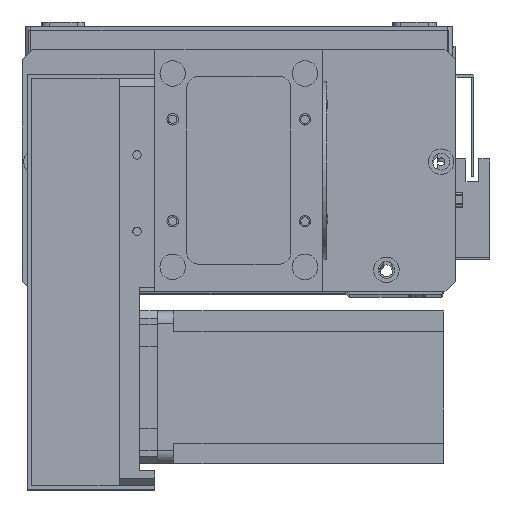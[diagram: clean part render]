
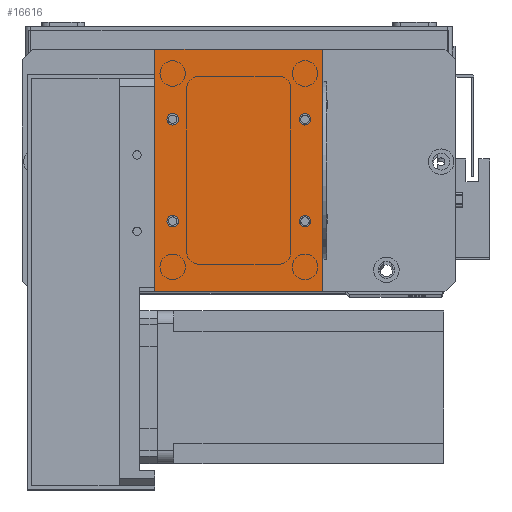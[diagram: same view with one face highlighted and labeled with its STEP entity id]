
A CAD part, top view. The second image highlights one B-rep face of the part: STEP entity #16616.
In plain terms, the highlighted planar face has unit normal (0, 0, 1).
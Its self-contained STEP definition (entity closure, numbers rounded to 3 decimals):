
#145 = VERTEX_POINT ( 'NONE', #14103 ) ;
#442 = AXIS2_PLACEMENT_3D ( 'NONE', #9469, #26300, #11877 ) ;
#683 = LINE ( 'NONE', #13311, #25603 ) ;
#1136 = EDGE_CURVE ( 'NONE', #10049, #26331, #16048, .T. ) ;
#1785 = DIRECTION ( 'NONE',  ( 1., 0., 0. ) ) ;
#1976 = AXIS2_PLACEMENT_3D ( 'NONE', #22240, #22003, #21690 ) ;
#2219 = AXIS2_PLACEMENT_3D ( 'NONE', #13370, #13170, #10941 ) ;
#2274 = CARTESIAN_POINT ( 'NONE',  ( 66., 95., 2. ) ) ;
#2403 = EDGE_CURVE ( 'NONE', #30305, #5881, #5742, .T. ) ;
#2607 = CARTESIAN_POINT ( 'NONE',  ( 9.25, 27.5, 2. ) ) ;
#2885 = EDGE_CURVE ( 'NONE', #12285, #18011, #11582, .T. ) ;
#2911 = CIRCLE ( 'NONE', #4398, 2.25 ) ;
#3321 = VERTEX_POINT ( 'NONE', #25537 ) ;
#3377 = PLANE ( 'NONE',  #28694 ) ;
#3705 = ORIENTED_EDGE ( 'NONE', *, *, #9231, .F. ) ;
#4034 = CARTESIAN_POINT ( 'NONE',  ( 66., 0., 2. ) ) ;
#4259 = DIRECTION ( 'NONE',  ( 0., 0., 1. ) ) ;
#4398 = AXIS2_PLACEMENT_3D ( 'NONE', #18782, #4259, #21167 ) ;
#4901 = CARTESIAN_POINT ( 'NONE',  ( 0., 0., 2. ) ) ;
#5110 = ORIENTED_EDGE ( 'NONE', *, *, #18858, .T. ) ;
#5139 = VECTOR ( 'NONE', #30135, 1000. ) ;
#5163 = EDGE_LOOP ( 'NONE', ( #3705, #28287 ) ) ;
#5742 = CIRCLE ( 'NONE', #2219, 2.25 ) ;
#5807 = CARTESIAN_POINT ( 'NONE',  ( 0., 0., 2. ) ) ;
#5881 = VERTEX_POINT ( 'NONE', #2607 ) ;
#6412 = CIRCLE ( 'NONE', #27199, 2.25 ) ;
#6425 = EDGE_CURVE ( 'NONE', #26331, #10049, #18220, .T. ) ;
#6477 = LINE ( 'NONE', #4901, #12133 ) ;
#7327 = CARTESIAN_POINT ( 'NONE',  ( 59., 67.5, 2. ) ) ;
#8145 = CARTESIAN_POINT ( 'NONE',  ( 59., 27.5, 2. ) ) ;
#8226 = DIRECTION ( 'NONE',  ( 1., 0., 0. ) ) ;
#9231 = EDGE_CURVE ( 'NONE', #5881, #30305, #2911, .T. ) ;
#9348 = FACE_BOUND ( 'NONE', #5163, .T. ) ;
#9422 = AXIS2_PLACEMENT_3D ( 'NONE', #7327, #24193, #9777 ) ;
#9469 = CARTESIAN_POINT ( 'NONE',  ( 59., 27.5, 2. ) ) ;
#9777 = DIRECTION ( 'NONE',  ( 1., 0., 0. ) ) ;
#10049 = VERTEX_POINT ( 'NONE', #17605 ) ;
#10576 = ORIENTED_EDGE ( 'NONE', *, *, #20970, .T. ) ;
#10588 = DIRECTION ( 'NONE',  ( 1., 0., 0. ) ) ;
#10682 = DIRECTION ( 'NONE',  ( 0., 0., -1. ) ) ;
#10941 = DIRECTION ( 'NONE',  ( 1., 0., 0. ) ) ;
#11274 = ORIENTED_EDGE ( 'NONE', *, *, #20344, .F. ) ;
#11582 = LINE ( 'NONE', #18469, #5139 ) ;
#11592 = EDGE_CURVE ( 'NONE', #3321, #29029, #6412, .T. ) ;
#11877 = DIRECTION ( 'NONE',  ( 1., 0., 0. ) ) ;
#12133 = VECTOR ( 'NONE', #24200, 1000. ) ;
#12285 = VERTEX_POINT ( 'NONE', #2274 ) ;
#12348 = DIRECTION ( 'NONE',  ( 0., 0., 1. ) ) ;
#13083 = CIRCLE ( 'NONE', #442, 2.25 ) ;
#13097 = VERTEX_POINT ( 'NONE', #15156 ) ;
#13170 = DIRECTION ( 'NONE',  ( 0., 0., 1. ) ) ;
#13311 = CARTESIAN_POINT ( 'NONE',  ( 66., 0., 2. ) ) ;
#13370 = CARTESIAN_POINT ( 'NONE',  ( 7., 27.5, 2. ) ) ;
#13498 = ORIENTED_EDGE ( 'NONE', *, *, #17425, .F. ) ;
#14103 = CARTESIAN_POINT ( 'NONE',  ( 56.75, 27.5, 2. ) ) ;
#14479 = LINE ( 'NONE', #22664, #20891 ) ;
#14744 = ORIENTED_EDGE ( 'NONE', *, *, #1136, .F. ) ;
#15156 = CARTESIAN_POINT ( 'NONE',  ( 61.25, 27.5, 2. ) ) ;
#15806 = FACE_BOUND ( 'NONE', #16570, .T. ) ;
#16048 = CIRCLE ( 'NONE', #1976, 2.25 ) ;
#16319 = DIRECTION ( 'NONE',  ( 0., 0., 1. ) ) ;
#16570 = EDGE_LOOP ( 'NONE', ( #13498, #29099 ) ) ;
#16596 = EDGE_CURVE ( 'NONE', #145, #13097, #18095, .T. ) ;
#16616 = ADVANCED_FACE ( 'NONE', ( #22161, #28514, #15806, #9348, #27784 ), #3377, .F. ) ;
#17425 = EDGE_CURVE ( 'NONE', #13097, #145, #13083, .T. ) ;
#17508 = CARTESIAN_POINT ( 'NONE',  ( 61.25, 67.5, 2. ) ) ;
#17605 = CARTESIAN_POINT ( 'NONE',  ( 56.75, 67.5, 2. ) ) ;
#17850 = CIRCLE ( 'NONE', #30405, 2.25 ) ;
#18011 = VERTEX_POINT ( 'NONE', #28745 ) ;
#18095 = CIRCLE ( 'NONE', #20715, 2.25 ) ;
#18220 = CIRCLE ( 'NONE', #9422, 2.25 ) ;
#18469 = CARTESIAN_POINT ( 'NONE',  ( 0., 95., 2. ) ) ;
#18773 = EDGE_LOOP ( 'NONE', ( #27008, #14744 ) ) ;
#18782 = CARTESIAN_POINT ( 'NONE',  ( 7., 27.5, 2. ) ) ;
#18858 = EDGE_CURVE ( 'NONE', #23287, #24784, #14479, .T. ) ;
#19959 = CARTESIAN_POINT ( 'NONE',  ( 4.75, 27.5, 2. ) ) ;
#20344 = EDGE_CURVE ( 'NONE', #29029, #3321, #17850, .T. ) ;
#20715 = AXIS2_PLACEMENT_3D ( 'NONE', #8145, #24991, #10588 ) ;
#20891 = VECTOR ( 'NONE', #8226, 1000. ) ;
#20970 = EDGE_CURVE ( 'NONE', #18011, #23287, #6477, .T. ) ;
#21167 = DIRECTION ( 'NONE',  ( 1., 0., 0. ) ) ;
#21690 = DIRECTION ( 'NONE',  ( 1., 0., 0. ) ) ;
#22003 = DIRECTION ( 'NONE',  ( 0., 0., 1. ) ) ;
#22161 = FACE_BOUND ( 'NONE', #29332, .T. ) ;
#22240 = CARTESIAN_POINT ( 'NONE',  ( 59., 67.5, 2. ) ) ;
#22357 = EDGE_CURVE ( 'NONE', #24784, #12285, #683, .T. ) ;
#22664 = CARTESIAN_POINT ( 'NONE',  ( 0., 0., 2. ) ) ;
#22969 = DIRECTION ( 'NONE',  ( 0., 1., 0. ) ) ;
#23287 = VERTEX_POINT ( 'NONE', #26265 ) ;
#23919 = ORIENTED_EDGE ( 'NONE', *, *, #11592, .F. ) ;
#24193 = DIRECTION ( 'NONE',  ( 0., 0., 1. ) ) ;
#24200 = DIRECTION ( 'NONE',  ( 0., -1., 0. ) ) ;
#24301 = CARTESIAN_POINT ( 'NONE',  ( 9.25, 67.5, 2. ) ) ;
#24784 = VERTEX_POINT ( 'NONE', #4034 ) ;
#24991 = DIRECTION ( 'NONE',  ( 0., 0., 1. ) ) ;
#25495 = ORIENTED_EDGE ( 'NONE', *, *, #2885, .T. ) ;
#25537 = CARTESIAN_POINT ( 'NONE',  ( 4.75, 67.5, 2. ) ) ;
#25603 = VECTOR ( 'NONE', #22969, 1000. ) ;
#26265 = CARTESIAN_POINT ( 'NONE',  ( 0., 0., 2. ) ) ;
#26300 = DIRECTION ( 'NONE',  ( 0., 0., 1. ) ) ;
#26331 = VERTEX_POINT ( 'NONE', #17508 ) ;
#26746 = CARTESIAN_POINT ( 'NONE',  ( 7., 67.5, 2. ) ) ;
#27008 = ORIENTED_EDGE ( 'NONE', *, *, #6425, .F. ) ;
#27199 = AXIS2_PLACEMENT_3D ( 'NONE', #30600, #16319, #1785 ) ;
#27506 = DIRECTION ( 'NONE',  ( -1., 0., 0. ) ) ;
#27784 = FACE_OUTER_BOUND ( 'NONE', #28152, .T. ) ;
#28152 = EDGE_LOOP ( 'NONE', ( #10576, #5110, #30361, #25495 ) ) ;
#28287 = ORIENTED_EDGE ( 'NONE', *, *, #2403, .F. ) ;
#28514 = FACE_BOUND ( 'NONE', #18773, .T. ) ;
#28694 = AXIS2_PLACEMENT_3D ( 'NONE', #5807, #10682, #27506 ) ;
#28745 = CARTESIAN_POINT ( 'NONE',  ( 0., 95., 2. ) ) ;
#29029 = VERTEX_POINT ( 'NONE', #24301 ) ;
#29099 = ORIENTED_EDGE ( 'NONE', *, *, #16596, .F. ) ;
#29116 = DIRECTION ( 'NONE',  ( 1., 0., 0. ) ) ;
#29332 = EDGE_LOOP ( 'NONE', ( #11274, #23919 ) ) ;
#30135 = DIRECTION ( 'NONE',  ( -1., 0., 0. ) ) ;
#30305 = VERTEX_POINT ( 'NONE', #19959 ) ;
#30361 = ORIENTED_EDGE ( 'NONE', *, *, #22357, .T. ) ;
#30405 = AXIS2_PLACEMENT_3D ( 'NONE', #26746, #12348, #29116 ) ;
#30600 = CARTESIAN_POINT ( 'NONE',  ( 7., 67.5, 2. ) ) ;
